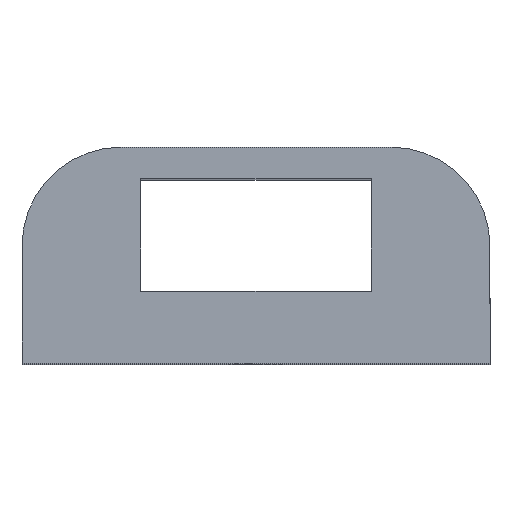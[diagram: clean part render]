
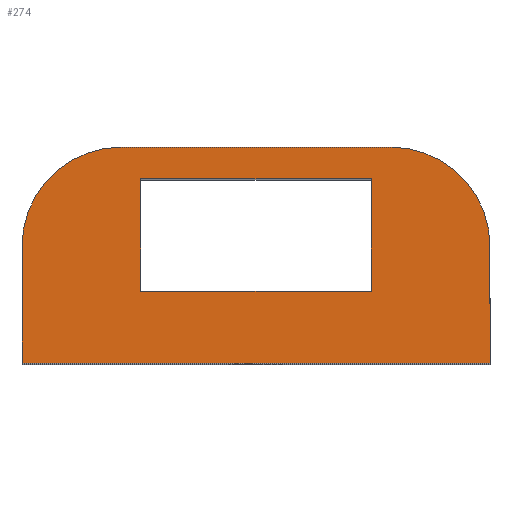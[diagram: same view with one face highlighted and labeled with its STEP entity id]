
A CAD part, top view. The second image highlights one B-rep face of the part: STEP entity #274.
In plain terms, the highlighted planar face has unit normal (0, 0, 1).
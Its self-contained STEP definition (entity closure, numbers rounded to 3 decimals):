
#274=ADVANCED_FACE('',(#506,#508),#510,.F.);
#506=FACE_BOUND('',#507,.T.);
#507=EDGE_LOOP('',(#681,#682,#683,#684,#685,#686));
#508=FACE_BOUND('',#509,.T.);
#509=EDGE_LOOP('',(#687,#688,#689,#690));
#510=PLANE('',#511);
#511=AXIS2_PLACEMENT_3D('',#512,#513,#514);
#512=CARTESIAN_POINT('',(-52.,22.,218.));
#513=DIRECTION('',(0.,0.,-1.));
#514=DIRECTION('',(1.,0.,0.));
#681=ORIENTED_EDGE('',*,*,#716,.F.);
#682=ORIENTED_EDGE('',*,*,#767,.F.);
#683=ORIENTED_EDGE('',*,*,#720,.F.);
#684=ORIENTED_EDGE('',*,*,#738,.F.);
#685=ORIENTED_EDGE('',*,*,#740,.F.);
#686=ORIENTED_EDGE('',*,*,#734,.F.);
#687=ORIENTED_EDGE('',*,*,#743,.F.);
#688=ORIENTED_EDGE('',*,*,#747,.F.);
#689=ORIENTED_EDGE('',*,*,#750,.F.);
#690=ORIENTED_EDGE('',*,*,#752,.F.);
#716=EDGE_CURVE('',#804,#806,#807,.F.);
#720=EDGE_CURVE('',#811,#813,#814,.F.);
#734=EDGE_CURVE('',#806,#840,#841,.F.);
#738=EDGE_CURVE('',#845,#811,#847,.F.);
#740=EDGE_CURVE('',#840,#845,#849,.F.);
#743=EDGE_CURVE('',#853,#855,#856,.F.);
#747=EDGE_CURVE('',#860,#853,#862,.F.);
#750=EDGE_CURVE('',#865,#860,#867,.T.);
#752=EDGE_CURVE('',#855,#865,#869,.F.);
#767=EDGE_CURVE('',#813,#804,#887,.F.);
#804=VERTEX_POINT('',#967);
#806=VERTEX_POINT('',#971);
#807=LINE('',#972,#973);
#811=VERTEX_POINT('',#982);
#813=VERTEX_POINT('',#986);
#814=LINE('',#987,#988);
#840=VERTEX_POINT('',#1048);
#841=CIRCLE('',#1049,11.);
#845=VERTEX_POINT('',#1061);
#847=CIRCLE('',#1065,11.);
#849=LINE('',#1072,#1073);
#853=VERTEX_POINT('',#1080);
#855=VERTEX_POINT('',#1084);
#856=LINE('',#1085,#1086);
#860=VERTEX_POINT('',#1095);
#862=LINE('',#1099,#1100);
#865=VERTEX_POINT('',#1106);
#867=LINE('',#1110,#1111);
#869=LINE('',#1116,#1117);
#887=LINE('',#1167,#1168);
#967=CARTESIAN_POINT('',(-52.,-8.,218.));
#971=CARTESIAN_POINT('',(-52.,5.,218.));
#972=CARTESIAN_POINT('',(-52.,5.,218.));
#973=VECTOR('',#974,1.);
#974=DIRECTION('',(0.,-1.,0.));
#982=CARTESIAN_POINT('',(0.,5.,218.));
#986=CARTESIAN_POINT('',(0.,-8.,218.));
#987=CARTESIAN_POINT('',(0.,-8.,218.));
#988=VECTOR('',#989,1.);
#989=DIRECTION('',(0.,1.,0.));
#1048=CARTESIAN_POINT('',(-41.,16.,218.));
#1049=AXIS2_PLACEMENT_3D('',#1050,#1051,#1052);
#1050=CARTESIAN_POINT('',(-41.,5.,218.));
#1051=DIRECTION('',(0.,-0.,1.));
#1052=DIRECTION('',(0.,1.,0.));
#1061=CARTESIAN_POINT('',(-11.,16.,218.));
#1065=AXIS2_PLACEMENT_3D('',#1066,#1067,#1068);
#1066=CARTESIAN_POINT('',(-11.,5.,218.));
#1067=DIRECTION('',(0.,0.,1.));
#1068=DIRECTION('',(1.,0.,0.));
#1072=CARTESIAN_POINT('',(-11.,16.,218.));
#1073=VECTOR('',#1074,1.);
#1074=DIRECTION('',(-1.,0.,0.));
#1080=CARTESIAN_POINT('',(-13.2,12.5,218.));
#1084=CARTESIAN_POINT('',(-38.8,12.5,218.));
#1085=CARTESIAN_POINT('',(-38.8,12.5,218.));
#1086=VECTOR('',#1087,1.);
#1087=DIRECTION('',(1.,0.,0.));
#1095=CARTESIAN_POINT('',(-13.2,0.,218.));
#1099=CARTESIAN_POINT('',(-13.2,12.5,218.));
#1100=VECTOR('',#1101,1.);
#1101=DIRECTION('',(0.,-1.,0.));
#1106=CARTESIAN_POINT('',(-38.8,0.,218.));
#1110=CARTESIAN_POINT('',(-38.8,0.,218.));
#1111=VECTOR('',#1112,1.);
#1112=DIRECTION('',(1.,0.,0.));
#1116=CARTESIAN_POINT('',(-38.8,0.,218.));
#1117=VECTOR('',#1118,1.);
#1118=DIRECTION('',(0.,1.,0.));
#1167=CARTESIAN_POINT('',(-52.,-8.,218.));
#1168=VECTOR('',#1169,1.);
#1169=DIRECTION('',(1.,0.,0.));
